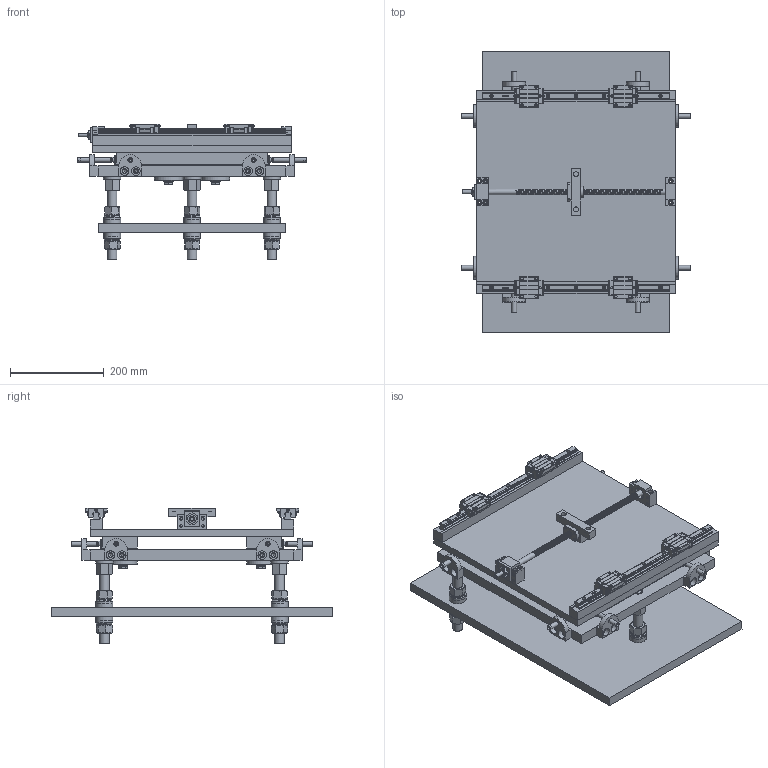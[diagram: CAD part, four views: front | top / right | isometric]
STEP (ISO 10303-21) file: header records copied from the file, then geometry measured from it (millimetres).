
FILE_DESCRIPTION(/* description */ (''),/* implementation_level */ '2;1');
FILE_NAME(/* name */ 'Z:\[CNAO] - Disegno e progettazione\[CNAO] - CNAO - 2016-02-26\03 - Magneti\LEBT-SL1\Supporto allineamento SL1-O3\step\Supporto allineamento SL1-O3.stp',/* time_stamp */ '2020-08-03T14:46:47+02:00',/* author */ ('S.Sironi'),/* organization */ ('Fondazione CNAO'),/* preprocessor_version */ 'ST-DEVELOPER v15.2',/* originating_system */ 'Autodesk Inventor 2014',/* authorisation */ '');
FILE_SCHEMA (('AUTOMOTIVE_DESIGN { 1 0 10303 214 3 1 1 }'));
Length unit declared in the file: millimetre
Products named in the file (35): Carrello; M4H; HGW15 Carrello; HGR15_temp-1; Vite rullata; Chioccila R12-5K4-FSCEW; Supporto per chiocciola; BF10-HiwinCorporation-3D-03-30-2020; BK10-HiwinCorporation-3D-03-31-2020; Supporto rotaie; Piastra Supporto rotaie; Piastra di regolazione orizzontale; 1; 2; IGUS drylin RSDJ-60-08; Piede di spinta; Blocco vite di spinta; Blocco vite di spinta_MIR; Blocco vite di spinta_MIR1; Blocco vite di spinta_MIR_MIR; Rondella fermo; HALDER DADO M20 battuta 23080_0020; HALDER DADO M20 230800520; Barra M20X2.5; Piastra superiore spaziatore; HALDER PIATTELLO EH22570_0018; HALDER M10X63 EH22570_0454; HALDER M10X63 EH22570_0454 + EH22570_0018; HALDER M10X80 EH22570_0458; HALDER M10X80 EH22570_0458 + EH22570_0018; ISO 4017 - M10 x 50ISO; ISO 7089 - 10 - 140 HV(1); Supporto allineamento SL1-O3
Bounding box: 488.3 x 600 x 289 mm (x, y, z)
Volume: 14037830.7 mm3; surface area: 1979419.9 mm2
Topology: 98 solids, 98 shells, 3974 faces, 10368 edges, 6758 vertices
Faces by surface type: plane 2730, cylinder 776, cone 316, bspline 123, torus 15, sphere 14
Full cylindrical faces by diameter (mm): 1 x8, 2.459 x2, 2.5 x1, 3.242 x18, 3.3 x16, 4 x24, 4.5 x18, 4.917 x6, 5 x16, 5.3 x8, 5.5 x28, 6 x8, 6.6 x6, 6.647 x4, 6.8 x8, 7.5 x14, 7.7 x1, 7.8 x8, 8 x4, 8.376 x27, 9 x4, 9.6 x1, 10 x14, 10.5 x20, 10.8 x14, 11 x2, 12 x63, 13 x1, 14.63 x2, 15.5 x2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
Entity records: 46045 total; most frequent: CARTESIAN_POINT 14550, DIRECTION 6079, ORIENTED_EDGE 6054, EDGE_CURVE 3027, VERTEX_POINT 2143, LINE 2089, VECTOR 2089, AXIS2_PLACEMENT_3D 1995
